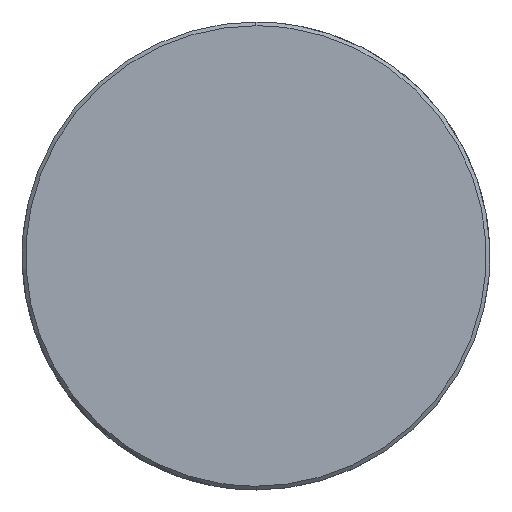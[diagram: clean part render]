
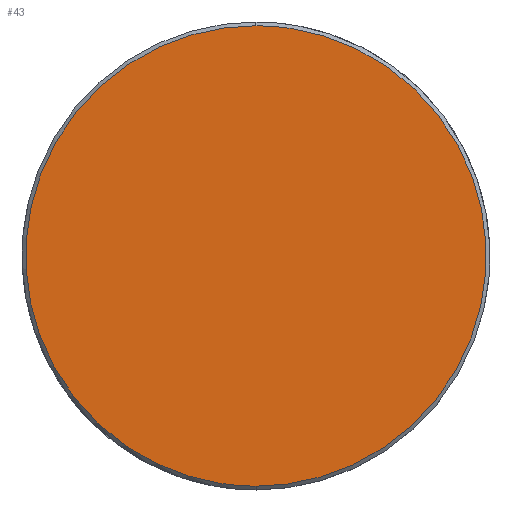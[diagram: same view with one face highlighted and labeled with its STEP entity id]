
A CAD part, top view. The second image highlights one B-rep face of the part: STEP entity #43.
In plain terms, the highlighted planar face has unit normal (0, 0, 1).
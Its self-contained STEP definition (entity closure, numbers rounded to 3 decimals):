
#43=ADVANCED_FACE('',(#75),#421,.T.);
#75=FACE_OUTER_BOUND('',#107,.T.);
#107=EDGE_LOOP('',(#197,#198));
#197=ORIENTED_EDGE('',*,*,#279,.T.);
#198=ORIENTED_EDGE('',*,*,#289,.T.);
#279=EDGE_CURVE('',#379,#386,#340,.T.);
#289=EDGE_CURVE('',#386,#379,#349,.T.);
#340=(
BOUNDED_CURVE()
B_SPLINE_CURVE(2,(#946,#947,#948,#949,#950),.UNSPECIFIED.,.F.,.F.)
B_SPLINE_CURVE_WITH_KNOTS((3,2,3),(0.,96.604,193.208),
 .UNSPECIFIED.)
CURVE()
GEOMETRIC_REPRESENTATION_ITEM()
RATIONAL_B_SPLINE_CURVE((1.,0.707,1.,0.707,1.))
REPRESENTATION_ITEM('')
);
#349=(
BOUNDED_CURVE()
B_SPLINE_CURVE(2,(#982,#983,#984,#985,#986),.UNSPECIFIED.,.F.,.F.)
B_SPLINE_CURVE_WITH_KNOTS((3,2,3),(193.208,289.811,386.415),
 .UNSPECIFIED.)
CURVE()
GEOMETRIC_REPRESENTATION_ITEM()
RATIONAL_B_SPLINE_CURVE((1.,0.707,1.,0.707,1.))
REPRESENTATION_ITEM('')
);
#379=VERTEX_POINT('',#927);
#386=VERTEX_POINT('',#934);
#421=PLANE('',#445);
#445=AXIS2_PLACEMENT_3D('',#825,#452,$);
#452=DIRECTION('',(0.,0.,1.));
#825=CARTESIAN_POINT('',(-62.73,-62.73,12.));
#927=CARTESIAN_POINT('',(0.,-61.5,12.));
#934=CARTESIAN_POINT('',(0.,61.5,12.));
#946=CARTESIAN_POINT('',(0.,-61.5,12.));
#947=CARTESIAN_POINT('',(61.5,-61.5,12.));
#948=CARTESIAN_POINT('',(61.5,0.,12.));
#949=CARTESIAN_POINT('',(61.5,61.5,12.));
#950=CARTESIAN_POINT('',(0.,61.5,12.));
#982=CARTESIAN_POINT('',(0.,61.5,12.));
#983=CARTESIAN_POINT('',(-61.5,61.5,12.));
#984=CARTESIAN_POINT('',(-61.5,0.,12.));
#985=CARTESIAN_POINT('',(-61.5,-61.5,12.));
#986=CARTESIAN_POINT('',(0.,-61.5,12.));
